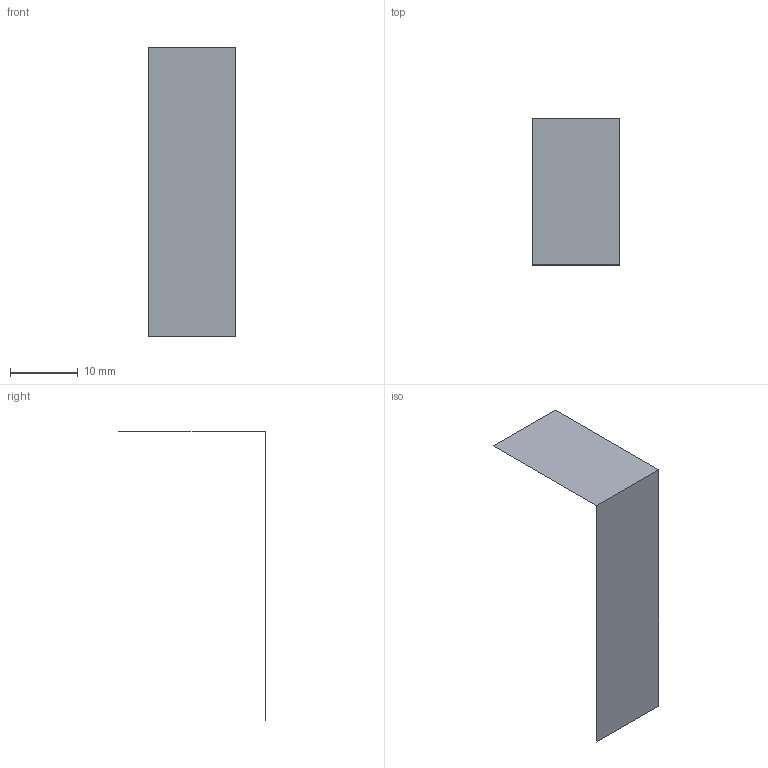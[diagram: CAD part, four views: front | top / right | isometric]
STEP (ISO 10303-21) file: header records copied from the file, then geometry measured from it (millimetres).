
FILE_DESCRIPTION(/* description */ ('STEP AP242','CAx-IF Rec.Pracs.---Representation and Presentation of Product Manufacturing Information (PMI)---4.0---2014-10-13','CAx-IF Rec.Pracs.---3D Tessellated Geometry---0.4---2014-09-14','2;1'),/* implementation_level */ '2;1');
FILE_NAME(/* name */ 'Body - Surface 1',/* time_stamp */ '2025-06-15T22:21:49Z',/* author */ (''),/* organization */ (''),/* preprocessor_version */ 'ST-DEVELOPER v20',/* originating_system */ 'ONSHAPE BY PTC INC, 1.199',/* authorisation */ ' ');
FILE_SCHEMA (('AP242_MANAGED_MODEL_BASED_3D_ENGINEERING_MIM_LF { 1 0 10303 442 1 1 4 }'));
Length unit declared in the file: metre
Products named in the file (1): Surface 1
Bounding box: 13 x 21.66 x 42.8 mm (x, y, z)
Surface area: 838 mm2 (no closed solid volume)
Topology: 0 solids, 1 shells, 2 faces, 7 edges, 6 vertices
Faces by surface type: plane 2
Entity records: 101 total; most frequent: CARTESIAN_POINT 16, DIRECTION 13, ORIENTED_EDGE 8, EDGE_CURVE 7, LINE 7, VECTOR 7, VERTEX_POINT 6, AXIS2_PLACEMENT_3D 3
